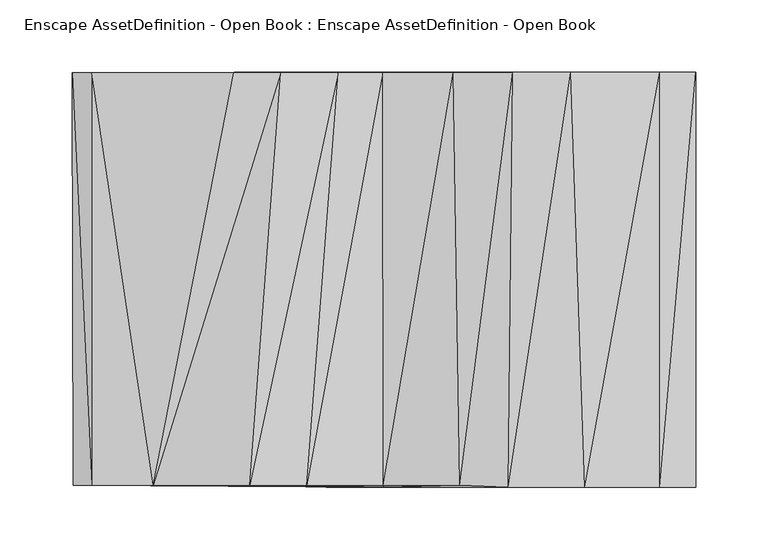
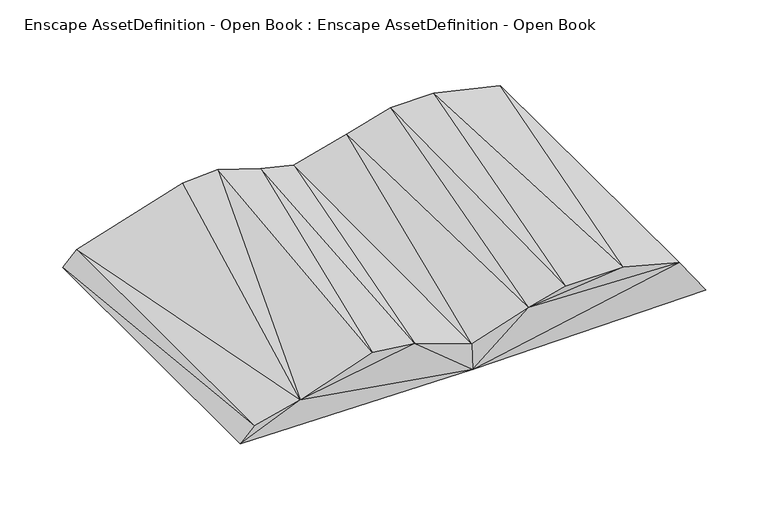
"""IFC4 building model written with IfcOpenShell, lengths in millimetres: geographic element geometry, Enscape AssetDefinition - Open Book : Enscape AssetDefinition - Open Book."""

from ifc_helpers import new_model, si_unit, origin, place, context, project, spatial, faceted_brep, source, transform, mapped, element, save


def enscape_assetdefinition_open_book_enscape_assetdefinition_e06b1bfc(model_context):
    return source(origin(), model_context, "Body", "Brep", [
        faceted_brep([(215.2048945, 142.6528394, 2.5462531), (-0.3475278, -143.755123, 0.0), (-0.3475278, 142.6528394, 0.0), (215.2048945, -143.755123, 2.5462531), (-214.676246, -142.3327178, 1.5477225), (190.5979663, -143.755123, 37.8687866), (52.2074923, -142.3327178, 41.7043157), (-0.3308856, -142.3327178, 24.4072229), (-53.1756729, -142.3327178, 43.1375019), (-159.3282968, -142.3327178, 25.0131916), (190.5979663, 142.6528394, 37.8687866), (138.8407946, -143.755123, 51.9529656), (128.9465278, 142.6528394, 51.9529656), (47.936324, 142.3327178, 40.2593873), (85.8413279, -143.755123, 51.9529656), (88.9162198, 142.6528394, 51.9529656), (-0.8751827, 142.3327178, 27.0807389), (-31.5349698, 142.3327178, 34.5716737), (-215.0903642, 142.3327178, 1.9167874), (-71.3185817, 142.3327178, 47.4860072), (-103.7835553, 142.3327178, 45.5300584), (-92.6029533, -142.3327178, 48.3651087), (-201.8666863, 142.3327178, 14.4923991), (-201.8666863, -142.3327178, 14.4923991)], [[[0, 1, 2]], [[1, 0, 3]], [[4, 2, 1]], [[1, 5, 6]], [[5, 1, 3]], [[1, 7, 8]], [[1, 6, 7]], [[1, 9, 4]], [[9, 1, 8]], [[0, 5, 3]], [[5, 0, 10]], [[10, 11, 5]], [[11, 6, 5]], [[11, 10, 12]], [[0, 13, 10]], [[13, 12, 10]], [[12, 14, 11]], [[6, 11, 14]], [[14, 12, 15]], [[12, 13, 15]], [[15, 6, 14]], [[6, 15, 13]], [[13, 7, 6]], [[7, 13, 16]], [[13, 0, 2]], [[13, 2, 16]], [[8, 16, 17]], [[16, 8, 7]], [[2, 17, 16]], [[2, 4, 18]], [[17, 2, 19]], [[19, 2, 20]], [[18, 20, 2]], [[21, 17, 19]], [[17, 21, 8]], [[9, 19, 20]], [[19, 9, 21]], [[22, 9, 20]], [[20, 18, 22]], [[23, 18, 4]], [[18, 23, 22]], [[4, 9, 23]], [[9, 22, 23]], [[9, 8, 21]]]),
    ])


if __name__ == "__main__":
    model = new_model("IFC4")
    model_context = context("Model", 3, world=origin())
    ifc_project = project(units=[si_unit("LENGTHUNIT", "METRE", prefix="MILLI")], contexts=[model_context])
    site = spatial("IfcSite", under=ifc_project)
    building = spatial("IfcBuilding", under=site)
    placement = place(None, origin())
    enscape_assetdefinition_open_book_enscape_assetdefinition_shape = enscape_assetdefinition_open_book_enscape_assetdefinition_e06b1bfc(model_context)
    element("IfcGeographicElement", 1, ObjectType="Enscape AssetDefinition - Open Book : Enscape AssetDefinition - Open Book", at=placement, inside=building, context=model_context, shape_type="MappedRepresentation", body=[
        mapped(enscape_assetdefinition_open_book_enscape_assetdefinition_shape, transform((0.0, 0.0, 0.0), x_axis=(1.0, 0.0, 0.0), y_axis=(0.0, 1.0, 0.0), z_axis=(0.0, 0.0, 1.0))),
    ])
    save(model, "model.ifc")
